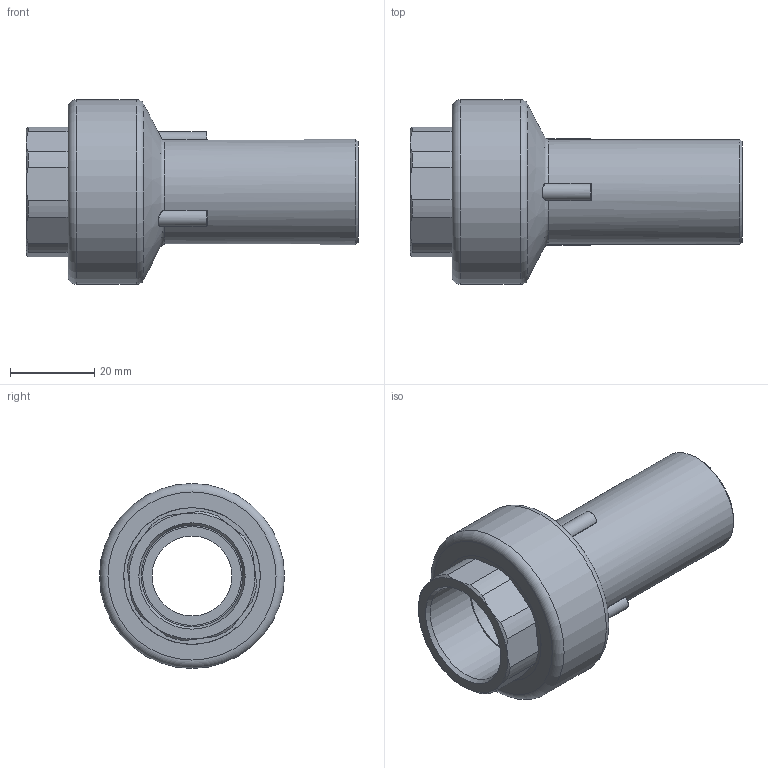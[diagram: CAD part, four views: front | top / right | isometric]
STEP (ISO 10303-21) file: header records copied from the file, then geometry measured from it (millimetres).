
FILE_DESCRIPTION(/* description */ ('Unknown'),/* implementation_level */ '2;1');
FILE_NAME(/* name */ 'RTOFP025C',/* time_stamp */ '2021-03-01T15:21:05+01:00',/* author */ ('Unknown'),/* organization */ ('Unknown'),/* preprocessor_version */ 'ST-DEVELOPER v16.7',/* originating_system */ 'Solid Edge',/* authorisation */ 'Unknown');
FILE_SCHEMA (('AUTOMOTIVE_DESIGN {1 0 10303 214 3 1 1}'));
Length unit declared in the file: millimetre
Products named in the file (3): RTOFP025C; Parte PE 025; IOF025C
Assembly tree (2 placements, depth 2):
  RTOFP025C
    Parte PE 025
    IOF025C
Bounding box: 79 x 44 x 44 mm (x, y, z)
Volume: 35305.8 mm3; surface area: 21226.2 mm2
Topology: 2 solids, 2 shells, 485 faces, 1183 edges, 713 vertices
Faces by surface type: bspline 231, plane 98, cylinder 82, cone 39, torus 35
Full cylindrical faces by diameter (mm): 19 x1, 23.5 x3, 24.117 x1, 25 x1, 26.5 x2, 32.5 x2, 33.4 x2, 36 x4, 44 x1
Entity records: 18213 total; most frequent: CARTESIAN_POINT 6642, ORIENTED_EDGE 2290, DIRECTION 1812, EDGE_CURVE 1145, AXIS2_PLACEMENT_3D 840, VERTEX_POINT 701, EDGE_LOOP 526, FACE_BOUND 526
